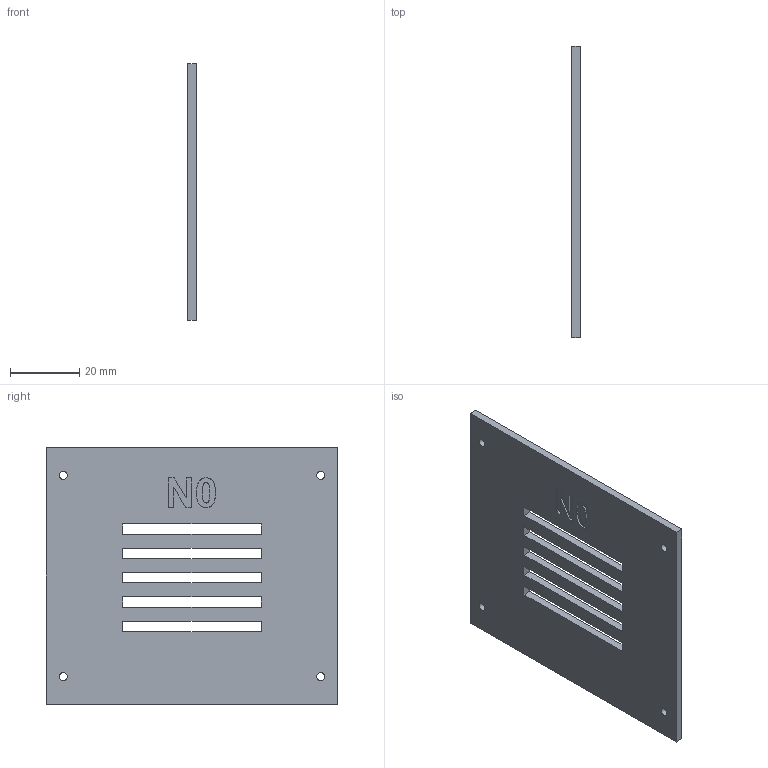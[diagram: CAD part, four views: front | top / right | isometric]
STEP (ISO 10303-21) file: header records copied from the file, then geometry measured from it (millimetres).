
FILE_DESCRIPTION(('FreeCAD Model'),'2;1');
FILE_NAME('Open CASCADE Shape Model','2026-11-08T20:38:38',('FreeCAD'),( 'FreeCAD'),'Open CASCADE STEP processor 7.8','FreeCAD','Unknown');
FILE_SCHEMA(('AUTOMOTIVE_DESIGN { 1 0 10303 214 1 1 1 1 }'));
Length unit declared in the file: millimetre
Products named in the file (1): Open CASCADE STEP translator 7.8 6
Bounding box: 2.4 x 84 x 74 mm (x, y, z)
Volume: 13399.2 mm3; surface area: 13109.3 mm2
Topology: 1 solids, 1 shells, 63 faces, 174 edges, 116 vertices
Faces by surface type: plane 39, extrusion 20, cylinder 4
Full cylindrical faces by diameter (mm): 2.3 x4
Entity records: 2293 total; most frequent: CARTESIAN_POINT 705, ORIENTED_EDGE 348, DIRECTION 250, EDGE_CURVE 174, VECTOR 146, LINE 126, VERTEX_POINT 116, FACE_BOUND 84
